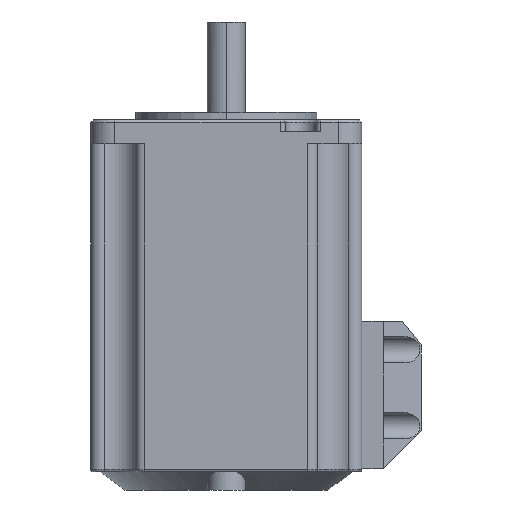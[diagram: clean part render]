
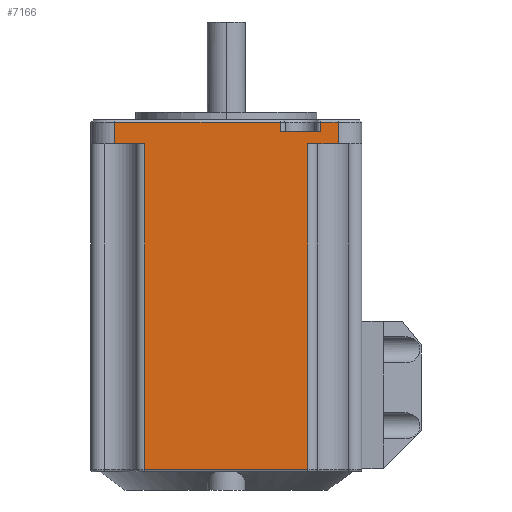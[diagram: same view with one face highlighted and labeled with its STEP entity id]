
A CAD part, left-side view. The second image highlights one B-rep face of the part: STEP entity #7166.
In plain terms, the highlighted planar face has unit normal (-1, 0, 0).
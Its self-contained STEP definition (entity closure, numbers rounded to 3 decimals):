
#483=DIRECTION('',(0.,1.,0.));
#484=VECTOR('',#483,3.608);
#485=CARTESIAN_POINT('',(-0.5,4.5,54.5));
#486=LINE('',#485,#484);
#500=DIRECTION('',(0.,0.,-1.));
#501=VECTOR('',#500,2.);
#502=CARTESIAN_POINT('',(-0.5,8.108,54.5));
#503=LINE('',#502,#501);
#508=DIRECTION('',(0.,-1.,0.));
#509=VECTOR('',#508,8.5);
#510=CARTESIAN_POINT('',(-0.5,16.608,52.5));
#511=LINE('',#510,#509);
#516=DIRECTION('',(0.,0.,-1.));
#517=VECTOR('',#516,68.5);
#518=CARTESIAN_POINT('',(-0.5,45.175,50.));
#519=LINE('',#518,#517);
#604=DIRECTION('',(0.,0.,1.));
#605=VECTOR('',#604,68.5);
#606=CARTESIAN_POINT('',(-0.5,10.825,-18.5));
#607=LINE('',#606,#605);
#641=DIRECTION('',(0.,-1.,0.));
#642=VECTOR('',#641,6.325);
#643=CARTESIAN_POINT('',(-0.5,10.825,50.));
#644=LINE('',#643,#642);
#664=DIRECTION('',(0.,0.,1.));
#665=VECTOR('',#664,4.5);
#666=CARTESIAN_POINT('',(-0.5,4.5,50.));
#667=LINE('',#666,#665);
#691=DIRECTION('',(0.,-1.,0.));
#692=VECTOR('',#691,34.351);
#693=CARTESIAN_POINT('',(-0.5,45.175,-18.5));
#694=LINE('',#693,#692);
#5266=DIRECTION('',(0.,1.,0.));
#5267=VECTOR('',#5266,34.892);
#5268=CARTESIAN_POINT('',(-0.5,16.608,54.5));
#5269=LINE('',#5268,#5267);
#5348=DIRECTION('',(0.,0.,1.));
#5349=VECTOR('',#5348,2.);
#5350=CARTESIAN_POINT('',(-0.5,16.608,52.5));
#5351=LINE('',#5350,#5349);
#5360=DIRECTION('',(0.,0.,-1.));
#5361=VECTOR('',#5360,4.5);
#5362=CARTESIAN_POINT('',(-0.5,51.5,54.5));
#5363=LINE('',#5362,#5361);
#5368=DIRECTION('',(0.,-1.,0.));
#5369=VECTOR('',#5368,6.325);
#5370=CARTESIAN_POINT('',(-0.5,51.5,50.));
#5371=LINE('',#5370,#5369);
#5807=CARTESIAN_POINT('',(-0.5,4.5,54.5));
#5808=VERTEX_POINT('',#5807);
#5809=CARTESIAN_POINT('',(-0.5,8.108,54.5));
#5810=VERTEX_POINT('',#5809);
#5813=CARTESIAN_POINT('',(-0.5,8.108,52.5));
#5814=VERTEX_POINT('',#5813);
#5817=CARTESIAN_POINT('',(-0.5,45.175,50.));
#5818=CARTESIAN_POINT('',(-0.5,45.175,-18.5));
#5819=VERTEX_POINT('',#5817);
#5820=VERTEX_POINT('',#5818);
#5821=CARTESIAN_POINT('',(-0.5,51.5,50.));
#5822=VERTEX_POINT('',#5821);
#5823=CARTESIAN_POINT('',(-0.5,51.5,54.5));
#5824=VERTEX_POINT('',#5823);
#5825=CARTESIAN_POINT('',(-0.5,16.608,54.5));
#5826=VERTEX_POINT('',#5825);
#5827=CARTESIAN_POINT('',(-0.5,16.608,52.5));
#5828=VERTEX_POINT('',#5827);
#5829=CARTESIAN_POINT('',(-0.5,4.5,50.));
#5830=VERTEX_POINT('',#5829);
#5831=CARTESIAN_POINT('',(-0.5,10.825,50.));
#5832=VERTEX_POINT('',#5831);
#5833=CARTESIAN_POINT('',(-0.5,10.825,-18.5));
#5834=VERTEX_POINT('',#5833);
#7137=CARTESIAN_POINT('',(-0.5,56.,55.));
#7138=DIRECTION('',(1.,0.,0.));
#7139=DIRECTION('',(0.,0.,-1.));
#7140=AXIS2_PLACEMENT_3D('',#7137,#7138,#7139);
#7141=PLANE('',#7140);
#7143=ORIENTED_EDGE('',*,*,#7142,.F.);
#7145=ORIENTED_EDGE('',*,*,#7144,.F.);
#7147=ORIENTED_EDGE('',*,*,#7146,.F.);
#7149=ORIENTED_EDGE('',*,*,#7148,.F.);
#7151=ORIENTED_EDGE('',*,*,#7150,.F.);
#7153=ORIENTED_EDGE('',*,*,#7152,.T.);
#7154=ORIENTED_EDGE('',*,*,#7127,.F.);
#7155=ORIENTED_EDGE('',*,*,#7103,.F.);
#7157=ORIENTED_EDGE('',*,*,#7156,.F.);
#7159=ORIENTED_EDGE('',*,*,#7158,.F.);
#7161=ORIENTED_EDGE('',*,*,#7160,.F.);
#7163=ORIENTED_EDGE('',*,*,#7162,.F.);
#7164=EDGE_LOOP('',(#7143,#7145,#7147,#7149,#7151,#7153,#7154,#7155,#7157,#7159,
#7161,#7163));
#7165=FACE_OUTER_BOUND('',#7164,.F.);
#7166=ADVANCED_FACE('',(#7165),#7141,.F.);
#7103=EDGE_CURVE('',#5808,#5810,#486,.T.);
#7127=EDGE_CURVE('',#5810,#5814,#503,.T.);
#7142=EDGE_CURVE('',#5819,#5820,#519,.T.);
#7144=EDGE_CURVE('',#5822,#5819,#5371,.T.);
#7146=EDGE_CURVE('',#5824,#5822,#5363,.T.);
#7148=EDGE_CURVE('',#5826,#5824,#5269,.T.);
#7150=EDGE_CURVE('',#5828,#5826,#5351,.T.);
#7152=EDGE_CURVE('',#5828,#5814,#511,.T.);
#7156=EDGE_CURVE('',#5830,#5808,#667,.T.);
#7158=EDGE_CURVE('',#5832,#5830,#644,.T.);
#7160=EDGE_CURVE('',#5834,#5832,#607,.T.);
#7162=EDGE_CURVE('',#5820,#5834,#694,.T.);
